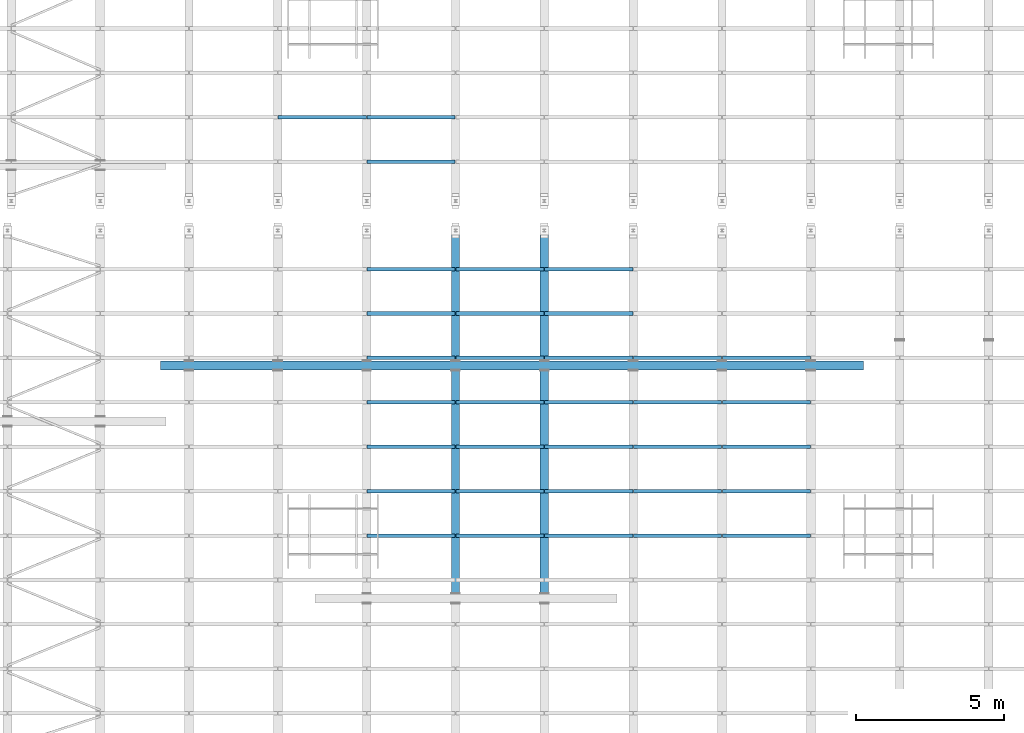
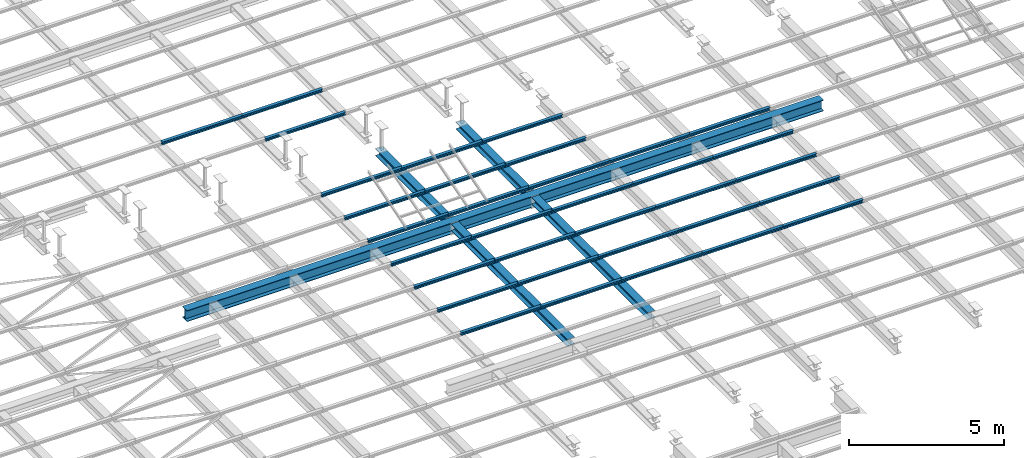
# One storey, part 62 of 139: 39 beams.
"""IFC2X3 building model written with IfcOpenShell, lengths in metres."""

import ifcopenshell
import ifcopenshell.guid

model = None  # the IFC model being written
_history = None  # IfcOwnerHistory: only IFC2X3 demands one
_inside = {}  # id of a spatial element -> (the spatial element, [elements in it])
_under = {}  # id of a project, library or spatial element -> (it, [spatial elements below it])
_declared = {}  # id of a project -> (the project, [libraries it declares])
_typed = {}  # id of a type object -> (the type object, [elements of that type])
_made_of = {}  # id of a material, layer set ... -> (it, [elements and type objects made of it])


def new_model(schema):
    """Start an empty IFC model of exactly this schema.

    Asked for "IFC4X3", IfcOpenShell would pick the latest addendum, in which some entities
    have other attributes; the version numbers below select the first issue.
    IFC2X3 requires an IfcOwnerHistory on every rooted entity: one is made here for all.
    """
    global model, _history
    if schema == "IFC4X3":
        model = ifcopenshell.file(schema_version=(4, 3, 0, 0))
    else:
        model = ifcopenshell.file(schema=schema)
    _inside.clear()
    _under.clear()
    _declared.clear()
    _typed.clear()
    _made_of.clear()
    _history = None
    if model.schema == "IFC2X3":
        org = make("IfcOrganization", Name="unknown")
        user = make(
            "IfcPersonAndOrganization",
            ThePerson=make("IfcPerson", FamilyName="unknown"),
            TheOrganization=org,
        )
        app = make(
            "IfcApplication",
            ApplicationDeveloper=org,
            Version="unknown",
            ApplicationFullName="unknown",
            ApplicationIdentifier="unknown",
        )
        _history = make(
            "IfcOwnerHistory",
            OwningUser=user,
            OwningApplication=app,
            ChangeAction="ADDED",
            CreationDate=0,
        )
    return model


def make(cls, **values):
    """One entity of the class cls with the attributes given. An attribute that is None is left unset."""
    return model.create_entity(
        cls, **{name: value for name, value in values.items() if value is not None}
    )


def entity(cls, *values):
    """Any entity or typed value of the class cls, its attributes in the order of the schema. None: left unset."""
    e = model.create_entity(cls)
    for i, value in enumerate(values):
        if value is not None:
            e[i] = value
    return e


def rooted(cls, **values):
    """An entity with a GlobalId (a new one), such as an element, a storey or a relation."""
    return make(cls, GlobalId=ifcopenshell.guid.new(), OwnerHistory=_history, **values)


def si_unit(unit_type, name, prefix=None):
    """IfcSIUnit, for example si_unit("LENGTHUNIT", "METRE", prefix="MILLI")."""
    return make("IfcSIUnit", UnitType=unit_type, Prefix=prefix, Name=name)


def converted_unit(unit_type, name, factor, base, dimensions=None, offset=None):
    """IfcConversionBasedUnit, such as the inch: factor (a typed value) times the base unit."""
    return make(
        "IfcConversionBasedUnit"
        if offset is None
        else "IfcConversionBasedUnitWithOffset",
        ConversionOffset=offset,
        Dimensions=None
        if dimensions is None
        else entity("IfcDimensionalExponents", *dimensions),
        UnitType=unit_type,
        Name=name,
        ConversionFactor=make(
            "IfcMeasureWithUnit", ValueComponent=factor, UnitComponent=base
        ),
    )


def derived_unit(unit_type, elements):
    """IfcDerivedUnit: a product of units, each with its exponent."""
    return make(
        "IfcDerivedUnit",
        Elements=[
            make("IfcDerivedUnitElement", Unit=unit, Exponent=power)
            for unit, power in elements
        ],
        UnitType=unit_type,
    )


def assignment(units):
    """IfcUnitAssignment: the units of a project."""
    return None if units is None else make("IfcUnitAssignment", Units=units)


def point(xyz):
    """IfcCartesianPoint."""
    return None if xyz is None else make("IfcCartesianPoint", Coordinates=xyz)


def direction(xyz):
    """IfcDirection."""
    return None if xyz is None else make("IfcDirection", DirectionRatios=xyz)


def frame(location, z_axis=None, x_axis=None):
    """IfcAxis2Placement3D, a coordinate frame: its origin and axes. An axis left out is left unset."""
    return make(
        "IfcAxis2Placement3D",
        Location=point(location),
        Axis=direction(z_axis),
        RefDirection=direction(x_axis),
    )


def origin():
    """The frame at (0, 0, 0) with its axes left unset."""
    return frame((0.0, 0.0, 0.0))


def place(relative_to, where):
    """IfcLocalPlacement: puts the frame where relative to a parent placement (None: the world)."""
    return make(
        "IfcLocalPlacement", PlacementRelTo=relative_to, RelativePlacement=where
    )


def context(
    kind, dimensions, precision=None, world=None, true_north=None, identifier=None
):
    """IfcGeometricRepresentationContext, for example the 3D "Model" context."""
    return make(
        "IfcGeometricRepresentationContext",
        ContextIdentifier=identifier,
        ContextType=kind,
        CoordinateSpaceDimension=dimensions,
        Precision=precision,
        WorldCoordinateSystem=world,
        TrueNorth=true_north,
    )


def subcontext(parent, identifier, kind, view, scale=None):
    """IfcGeometricRepresentationSubContext, for example "Body" below "Model"."""
    return make(
        "IfcGeometricRepresentationSubContext",
        ContextIdentifier=identifier,
        ContextType=kind,
        ParentContext=parent,
        TargetScale=scale,
        TargetView=view,
    )


def project(units=None, contexts=None):
    """IfcProject with its units and contexts."""
    return rooted(
        "IfcProject",
        Name="project",
        RepresentationContexts=contexts,
        UnitsInContext=assignment(units),
    )


def spatial(cls, under=None, at=None, **own):
    """A site, building, storey or space (cls), placed at a placement, below another one or the project."""
    s = rooted(cls, ObjectPlacement=at, **own)
    if under is not None:
        _under.setdefault(under.id(), (under, []))[1].append(s)
    return s


def polyline(points):
    """IfcPolyline through the points."""
    return make("IfcPolyline", Points=[point(p) for p in points])


def outline(outer, holes=None, kind="AREA"):
    """IfcArbitraryClosedProfileDef: a profile drawn as a closed curve; with holes, ...WithVoids."""
    if holes is None:
        return make("IfcArbitraryClosedProfileDef", ProfileType=kind, OuterCurve=outer)
    return make(
        "IfcArbitraryProfileDefWithVoids",
        ProfileType=kind,
        OuterCurve=outer,
        InnerCurves=holes,
    )


def extrude(swept, where, along, depth):
    """IfcExtrudedAreaSolid: the profile swept, set in the frame where, extruded along a direction by depth."""
    return make(
        "IfcExtrudedAreaSolid",
        SweptArea=swept,
        Position=where,
        ExtrudedDirection=direction(along),
        Depth=depth,
    )


def shape(context_of_items, identifier, shape_type, items):
    """IfcShapeRepresentation: the items that make up one representation, for example the "Body"."""
    return make(
        "IfcShapeRepresentation",
        ContextOfItems=context_of_items,
        RepresentationIdentifier=identifier,
        RepresentationType=shape_type,
        Items=items,
    )


def material(Name=None, Category=None):
    """IfcMaterial."""
    return make("IfcMaterial", Name=Name, Category=Category)


def made_of(thing, what):
    """Note that an element or type object is made of a material, layer set ...; save() writes the relation."""
    if what is not None:
        _made_of.setdefault(what.id(), (what, []))[1].append(thing)
    return thing


def element(
    cls,
    number,
    at=None,
    inside=None,
    cuts=None,
    type_object=None,
    material=None,
    context=None,
    identifier="Body",
    shape_type=None,
    held_by="IfcProductDefinitionShape",
    body=None,
    shapes=None,
    **own,
):
    """One element of the class cls, such as IfcWall. Its Tag is "e" and its number.

    at: its placement. inside: the storey or other place that contains it. cuts: it is an
    opening in that element (IfcRelVoidsElement). A single representation is given by context,
    identifier, shape_type and body (its items); several are given by shapes. held_by: the class
    of the entity that holds the representations. save() writes the other relations.
    """
    e = rooted(cls, Tag="e%d" % number, ObjectPlacement=at, **own)
    if body is not None:
        shapes = [shape(context, identifier, shape_type, body)]
    if shapes is not None:
        e.Representation = make(held_by, Representations=shapes)
    if inside is not None:
        _inside.setdefault(inside.id(), (inside, []))[1].append(e)
    if cuts is not None:
        rooted(
            "IfcRelVoidsElement", RelatingBuildingElement=cuts, RelatedOpeningElement=e
        )
    if type_object is not None:
        _typed.setdefault(type_object.id(), (type_object, []))[1].append(e)
    return made_of(e, material)


def aggregate(whole, parts):
    """IfcRelAggregates: a whole, such as a stair, and the parts it consists of."""
    return rooted("IfcRelAggregates", RelatingObject=whole, RelatedObjects=parts)


def save(model, path):
    """Write the relations noted so far, then the file.

    IfcRelAggregates (storeys below a building ...), IfcRelContainedInSpatialStructure (elements
    in a storey), IfcRelDefinesByType, IfcRelAssociatesMaterial and IfcRelDeclares: one each for
    every whole, place, type object, material and project.
    """
    for whole, parts in _under.values():
        aggregate(whole, parts)
    for where, things in _inside.values():
        rooted(
            "IfcRelContainedInSpatialStructure",
            RelatedElements=things,
            RelatingStructure=where,
        )
    for kind, things in _typed.values():
        rooted("IfcRelDefinesByType", RelatedObjects=things, RelatingType=kind)
    for what, things in _made_of.values():
        rooted("IfcRelAssociatesMaterial", RelatedObjects=things, RelatingMaterial=what)
    for by, libraries in _declared.values():
        rooted("IfcRelDeclares", RelatingContext=by, RelatedDefinitions=libraries)
    model.write(path)


model = new_model("IFC2X3")

# Units and contexts
model_context = context("Model", 3, precision=1e-05, world=origin())
body_context = subcontext(model_context, "Body", "Model", "MODEL_VIEW")
ifc_project = project(units=[si_unit("LENGTHUNIT", "METRE"), si_unit("AREAUNIT", "SQUARE_METRE"), si_unit("VOLUMEUNIT", "CUBIC_METRE"), si_unit("MASSUNIT", "GRAM", prefix="KILO"), converted_unit("PLANEANGLEUNIT", "DEGREE", entity("IfcPlaneAngleMeasure", 0.0174532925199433), si_unit("PLANEANGLEUNIT", "RADIAN"), dimensions=[0, 0, 0, 0, 0, 0, 0]), derived_unit("THERMALTRANSMITTANCEUNIT", [(si_unit("POWERUNIT", "WATT"), 1), (si_unit("THERMODYNAMICTEMPERATUREUNIT", "KELVIN"), -1), (si_unit("LENGTHUNIT", "METRE"), -2)]), derived_unit("VOLUMETRICFLOWRATEUNIT", [(si_unit("LENGTHUNIT", "METRE"), 3), (converted_unit("TIMEUNIT", "hour", entity("IfcTimeMeasure", 3600.0), si_unit("TIMEUNIT", "SECOND"), dimensions=[0, 0, 1, 0, 0, 0, 0]), -1), (si_unit("LENGTHUNIT", "METRE"), -1)])], contexts=[model_context])

# Site, building, storey
site_placement = place(None, origin())
site = spatial("IfcSite", under=ifc_project, at=site_placement, Name="TWP_Speiseverteilzentrum SBW VZ II", CompositionType="ELEMENT")
building_placement = place(site_placement, origin())
building = spatial("IfcBuilding", under=site, at=building_placement, Name="Speiseverteilzentrum SBW VZ II", CompositionType="ELEMENT")
storey_placement = place(building_placement, frame((0.0, 0.0, 7.1307)))
storey = spatial("IfcBuildingStorey", under=building, at=storey_placement, Name="Wartung_FFB", CompositionType="ELEMENT", Elevation=7.1307)

# Beams
ifc_material_1 = material(Name="S235")
beam_1_placement = place(storey_placement, frame((51.0896046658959, 65.3445685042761, -0.41), z_axis=(0.0, 0.0, 1.0), x_axis=(-1.22464679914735e-16, -1.0, 0.0)))
element("IfcBeam", 1, at=beam_1_placement, inside=storey, material=ifc_material_1, Name="Stahlträger", context=body_context, shape_type="SweptSolid", body=[
    extrude(outline(polyline([(-0.15, 0.22), (-0.15, 0.199), (-0.00574999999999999, 0.199), (-0.00575000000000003, -0.199), (-0.15, -0.199), (-0.15, -0.22), (0.15, -0.22), (0.15, -0.199), (0.00574999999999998, -0.199), (0.00575000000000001, 0.199), (0.15, 0.199), (0.15, 0.22), (-0.15, 0.22)])), frame((0.0, 0.0, 0.0), z_axis=(0.0, 1.0, 0.0), x_axis=(-1.0, 0.0, 0.0)), (0.0, 0.0, 1.0), 23.7347745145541),
])
ifc_material_2 = material(Name="S235")
beam_2_placement = place(storey_placement, frame((61.0500000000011, 65.1695685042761, -0.325), z_axis=(0.0, 0.0, 1.0), x_axis=(-1.0, 0.0, 0.0)))
element("IfcBeam", 2, at=beam_2_placement, inside=storey, material=ifc_material_2, Name="Stahlträger", context=body_context, shape_type="SweptSolid", body=[
    extrude(outline(polyline([(-0.14, 0.135), (-0.14, 0.122), (-0.00400000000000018, 0.122), (-0.00400000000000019, -0.122), (-0.14, -0.122), (-0.14, -0.135), (0.14, -0.135), (0.14, -0.122), (0.00399999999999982, -0.122), (0.00399999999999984, 0.122), (0.14, 0.122), (0.14, 0.135), (-0.14, 0.135)])), frame((0.0, 0.0, 0.0), z_axis=(0.0, 1.0, 0.0), x_axis=(-1.0, 0.0, 0.0)), (0.0, 0.0, 1.0), 7.51492643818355),
])
ifc_material_3 = material(Name="S235")
beam_3_placement = place(storey_placement, frame((64.0500000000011, 65.1695685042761, -0.325), z_axis=(0.0, 0.0, 1.0), x_axis=(-1.0, 0.0, 0.0)))
element("IfcBeam", 3, at=beam_3_placement, inside=storey, material=ifc_material_3, Name="Stahlträger", context=body_context, shape_type="SweptSolid", body=[
    extrude(outline(polyline([(-0.14, 0.135), (-0.14, 0.122), (-0.00400000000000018, 0.122), (-0.00400000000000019, -0.122), (-0.14, -0.122), (-0.14, -0.135), (0.14, -0.135), (0.14, -0.122), (0.00399999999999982, -0.122), (0.00399999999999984, 0.122), (0.14, 0.122), (0.14, 0.135), (-0.14, 0.135)])), frame((0.0, 0.0, 0.0), z_axis=(0.0, 1.0, 0.0), x_axis=(-1.0, 0.0, 0.0)), (0.0, 0.0, 1.0), 7.51492643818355),
])
ifc_material_4 = material(Name="S235")
beam_4_placement = place(storey_placement, frame((61.0500000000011, 70.0522526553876, -0.325), z_axis=(0.0, 0.0, 1.0), x_axis=(-1.0, 0.0, 0.0)))
element("IfcBeam", 4, at=beam_4_placement, inside=storey, material=ifc_material_4, Name="Stahlträger", context=body_context, shape_type="SweptSolid", body=[
    extrude(outline(polyline([(-0.14, 0.135), (-0.14, 0.122), (-0.00400000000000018, 0.122), (-0.00400000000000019, -0.122), (-0.14, -0.122), (-0.14, -0.135), (0.14, -0.135), (0.14, -0.122), (0.00399999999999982, -0.122), (0.00399999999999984, 0.122), (0.14, 0.122), (0.14, 0.135), (-0.14, 0.135)])), frame((0.0, 0.0, 0.0), z_axis=(0.0, 1.0, 0.0), x_axis=(-1.0, 0.0, 0.0)), (0.0, 0.0, 1.0), 4.53268415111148),
])
ifc_material_5 = material(Name="S235")
beam_5_placement = place(storey_placement, frame((64.0500000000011, 70.0522526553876, -0.325), z_axis=(0.0, 0.0, 1.0), x_axis=(-1.0, 0.0, 0.0)))
element("IfcBeam", 5, at=beam_5_placement, inside=storey, material=ifc_material_5, Name="Stahlträger", context=body_context, shape_type="SweptSolid", body=[
    extrude(outline(polyline([(-0.14, 0.135), (-0.14, 0.122), (-0.00400000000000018, 0.122), (-0.00400000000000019, -0.122), (-0.14, -0.122), (-0.14, -0.135), (0.14, -0.135), (0.14, -0.122), (0.00399999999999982, -0.122), (0.00399999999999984, 0.122), (0.14, 0.122), (0.14, 0.135), (-0.14, 0.135)])), frame((0.0, 0.0, 0.0), z_axis=(0.0, 1.0, 0.0), x_axis=(-1.0, 0.0, 0.0)), (0.0, 0.0, 1.0), 4.53268415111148),
])
ifc_material_6 = material(Name="S235")
beam_6_placement = place(storey_placement, frame((55.0600000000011, 73.7261263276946, -0.133), z_axis=(0.0, 0.0, 1.0), x_axis=(0.0, -1.0, 0.0)))
element("IfcBeam", 6, at=beam_6_placement, inside=storey, material=ifc_material_6, Name="Nebenträger", context=body_context, shape_type="SweptSolid", body=[
    extrude(outline(polyline([(-0.06, 0.0570000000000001), (-0.06, 0.0490000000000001), (-0.00249999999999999, 0.0490000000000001), (-0.0025, -0.0489999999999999), (-0.06, -0.0489999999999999), (-0.06, -0.0569999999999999), (0.06, -0.0569999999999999), (0.06, -0.0489999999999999), (0.0025, -0.0489999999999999), (0.00250000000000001, 0.0490000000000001), (0.06, 0.0490000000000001), (0.06, 0.0570000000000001), (-0.06, 0.0570000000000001)])), frame((0.0, 0.0, 0.0), z_axis=(0.0, 1.0, 0.0), x_axis=(-1.0, 0.0, 0.0)), (0.0, 0.0, 1.0), 2.98),
])
ifc_material_7 = material(Name="S235")
beam_7_placement = place(storey_placement, frame((58.0600000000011, 73.7261263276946, -0.133), z_axis=(0.0, 0.0, 1.0), x_axis=(0.0, -1.0, 0.0)))
element("IfcBeam", 7, at=beam_7_placement, inside=storey, material=ifc_material_7, Name="Nebenträger", context=body_context, shape_type="SweptSolid", body=[
    extrude(outline(polyline([(-0.06, 0.0570000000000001), (-0.06, 0.0490000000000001), (-0.00249999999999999, 0.0490000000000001), (-0.0025, -0.0489999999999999), (-0.06, -0.0489999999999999), (-0.06, -0.0569999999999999), (0.06, -0.0569999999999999), (0.06, -0.0489999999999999), (0.0025, -0.0489999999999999), (0.00250000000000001, 0.0490000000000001), (0.06, 0.0490000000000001), (0.06, 0.0570000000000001), (-0.06, 0.0570000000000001)])), frame((0.0, 0.0, 0.0), z_axis=(0.0, 1.0, 0.0), x_axis=(-1.0, 0.0, 0.0)), (0.0, 0.0, 1.0), 2.98),
])
ifc_material_8 = material(Name="S235")
beam_8_placement = place(storey_placement, frame((58.0600000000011, 72.2261263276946, -0.133), z_axis=(0.0, 0.0, 1.0), x_axis=(0.0, -1.0, 0.0)))
element("IfcBeam", 8, at=beam_8_placement, inside=storey, material=ifc_material_8, Name="Nebenträger", context=body_context, shape_type="SweptSolid", body=[
    extrude(outline(polyline([(-0.06, 0.0570000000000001), (-0.06, 0.0490000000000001), (-0.00249999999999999, 0.0490000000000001), (-0.0025, -0.0489999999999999), (-0.06, -0.0489999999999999), (-0.06, -0.0569999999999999), (0.06, -0.0569999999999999), (0.06, -0.0489999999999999), (0.0025, -0.0489999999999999), (0.00250000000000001, 0.0490000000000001), (0.06, 0.0490000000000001), (0.06, 0.0570000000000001), (-0.06, 0.0570000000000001)])), frame((0.0, 0.0, 0.0), z_axis=(0.0, 1.0, 0.0), x_axis=(-1.0, 0.0, 0.0)), (0.0, 0.0, 1.0), 2.98),
])
ifc_material_9 = material(Name="S235")
beam_9_placement = place(storey_placement, frame((64.0600000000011, 68.6011263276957, -0.133), z_axis=(0.0, 0.0, 1.0), x_axis=(0.0, -1.0, 0.0)))
element("IfcBeam", 9, at=beam_9_placement, inside=storey, material=ifc_material_9, Name="Nebenträger", context=body_context, shape_type="SweptSolid", body=[
    extrude(outline(polyline([(-0.06, 0.0570000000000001), (-0.06, 0.0490000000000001), (-0.00249999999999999, 0.0490000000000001), (-0.0025, -0.0489999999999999), (-0.06, -0.0489999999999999), (-0.06, -0.0569999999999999), (0.06, -0.0569999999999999), (0.06, -0.0489999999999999), (0.0025, -0.0489999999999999), (0.00250000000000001, 0.0490000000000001), (0.06, 0.0490000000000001), (0.06, 0.0570000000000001), (-0.06, 0.0570000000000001)])), frame((0.0, 0.0, 0.0), z_axis=(0.0, 1.0, 0.0), x_axis=(-1.0, 0.0, 0.0)), (0.0, 0.0, 1.0), 2.98000000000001),
])
ifc_material_10 = material(Name="S235")
beam_10_placement = place(storey_placement, frame((58.0600000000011, 68.6011263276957, -0.133), z_axis=(0.0, 0.0, 1.0), x_axis=(0.0, -1.0, 0.0)))
element("IfcBeam", 10, at=beam_10_placement, inside=storey, material=ifc_material_10, Name="Nebenträger", context=body_context, shape_type="SweptSolid", body=[
    extrude(outline(polyline([(-0.06, 0.0570000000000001), (-0.06, 0.0490000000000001), (-0.00249999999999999, 0.0490000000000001), (-0.0025, -0.0489999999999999), (-0.06, -0.0489999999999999), (-0.06, -0.0569999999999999), (0.06, -0.0569999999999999), (0.06, -0.0489999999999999), (0.0025, -0.0489999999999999), (0.00250000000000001, 0.0490000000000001), (0.06, 0.0490000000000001), (0.06, 0.0570000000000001), (-0.06, 0.0570000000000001)])), frame((0.0, 0.0, 0.0), z_axis=(0.0, 1.0, 0.0), x_axis=(-1.0, 0.0, 0.0)), (0.0, 0.0, 1.0), 2.98),
])
ifc_material_11 = material(Name="S235")
beam_11_placement = place(storey_placement, frame((61.0600000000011, 68.6011263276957, -0.133), z_axis=(0.0, 0.0, 1.0), x_axis=(0.0, -1.0, 0.0)))
element("IfcBeam", 11, at=beam_11_placement, inside=storey, material=ifc_material_11, Name="Nebenträger", context=body_context, shape_type="SweptSolid", body=[
    extrude(outline(polyline([(-0.06, 0.0570000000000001), (-0.06, 0.0490000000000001), (-0.00249999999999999, 0.0490000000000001), (-0.0025, -0.0489999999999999), (-0.06, -0.0489999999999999), (-0.06, -0.0569999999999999), (0.06, -0.0569999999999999), (0.06, -0.0489999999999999), (0.0025, -0.0489999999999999), (0.00250000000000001, 0.0490000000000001), (0.06, 0.0490000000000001), (0.06, 0.0570000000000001), (-0.06, 0.0570000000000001)])), frame((0.0, 0.0, 0.0), z_axis=(0.0, 1.0, 0.0), x_axis=(-1.0, 0.0, 0.0)), (0.0, 0.0, 1.0), 2.98),
])
ifc_material_12 = material(Name="S235")
beam_12_placement = place(storey_placement, frame((64.0600000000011, 67.1011263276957, -0.133), z_axis=(0.0, 0.0, 1.0), x_axis=(0.0, -1.0, 0.0)))
element("IfcBeam", 12, at=beam_12_placement, inside=storey, material=ifc_material_12, Name="Nebenträger", context=body_context, shape_type="SweptSolid", body=[
    extrude(outline(polyline([(-0.06, 0.0570000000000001), (-0.06, 0.0490000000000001), (-0.00249999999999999, 0.0490000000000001), (-0.0025, -0.0489999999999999), (-0.06, -0.0489999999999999), (-0.06, -0.0569999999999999), (0.06, -0.0569999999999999), (0.06, -0.0489999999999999), (0.0025, -0.0489999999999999), (0.00250000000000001, 0.0490000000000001), (0.06, 0.0490000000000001), (0.06, 0.0570000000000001), (-0.06, 0.0570000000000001)])), frame((0.0, 0.0, 0.0), z_axis=(0.0, 1.0, 0.0), x_axis=(-1.0, 0.0, 0.0)), (0.0, 0.0, 1.0), 2.98000000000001),
])
ifc_material_13 = material(Name="S235")
beam_13_placement = place(storey_placement, frame((58.0600000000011, 67.1011263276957, -0.133), z_axis=(0.0, 0.0, 1.0), x_axis=(0.0, -1.0, 0.0)))
element("IfcBeam", 13, at=beam_13_placement, inside=storey, material=ifc_material_13, Name="Nebenträger", context=body_context, shape_type="SweptSolid", body=[
    extrude(outline(polyline([(-0.06, 0.0570000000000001), (-0.06, 0.0490000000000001), (-0.00249999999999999, 0.0490000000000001), (-0.0025, -0.0489999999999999), (-0.06, -0.0489999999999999), (-0.06, -0.0569999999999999), (0.06, -0.0569999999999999), (0.06, -0.0489999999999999), (0.0025, -0.0489999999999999), (0.00250000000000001, 0.0490000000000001), (0.06, 0.0490000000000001), (0.06, 0.0570000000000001), (-0.06, 0.0570000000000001)])), frame((0.0, 0.0, 0.0), z_axis=(0.0, 1.0, 0.0), x_axis=(-1.0, 0.0, 0.0)), (0.0, 0.0, 1.0), 2.98),
])
ifc_material_14 = material(Name="S235")
beam_14_placement = place(storey_placement, frame((61.0600000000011, 67.1011263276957, -0.133), z_axis=(0.0, 0.0, 1.0), x_axis=(0.0, -1.0, 0.0)))
element("IfcBeam", 14, at=beam_14_placement, inside=storey, material=ifc_material_14, Name="Nebenträger", context=body_context, shape_type="SweptSolid", body=[
    extrude(outline(polyline([(-0.06, 0.0570000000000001), (-0.06, 0.0490000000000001), (-0.00249999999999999, 0.0490000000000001), (-0.0025, -0.0489999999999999), (-0.06, -0.0489999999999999), (-0.06, -0.0569999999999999), (0.06, -0.0569999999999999), (0.06, -0.0489999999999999), (0.0025, -0.0489999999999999), (0.00250000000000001, 0.0490000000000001), (0.06, 0.0490000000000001), (0.06, 0.0570000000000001), (-0.06, 0.0570000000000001)])), frame((0.0, 0.0, 0.0), z_axis=(0.0, 1.0, 0.0), x_axis=(-1.0, 0.0, 0.0)), (0.0, 0.0, 1.0), 2.98),
])
ifc_material_15 = material(Name="S235")
beam_15_placement = place(storey_placement, frame((64.0600000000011, 65.6011263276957, -0.133), z_axis=(0.0, 0.0, 1.0), x_axis=(0.0, -1.0, 0.0)))
element("IfcBeam", 15, at=beam_15_placement, inside=storey, material=ifc_material_15, Name="Nebenträger", context=body_context, shape_type="SweptSolid", body=[
    extrude(outline(polyline([(-0.06, 0.0570000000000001), (-0.06, 0.0490000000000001), (-0.00249999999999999, 0.0490000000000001), (-0.0025, -0.0489999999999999), (-0.06, -0.0489999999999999), (-0.06, -0.0569999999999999), (0.06, -0.0569999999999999), (0.06, -0.0489999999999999), (0.0025, -0.0489999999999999), (0.00250000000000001, 0.0490000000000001), (0.06, 0.0490000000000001), (0.06, 0.0570000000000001), (-0.06, 0.0570000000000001)])), frame((0.0, 0.0, 0.0), z_axis=(0.0, 1.0, 0.0), x_axis=(-1.0, 0.0, 0.0)), (0.0, 0.0, 1.0), 2.98000000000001),
])
ifc_material_16 = material(Name="S235")
beam_16_placement = place(storey_placement, frame((67.0600000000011, 65.6011263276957, -0.133), z_axis=(0.0, 0.0, 1.0), x_axis=(0.0, -1.0, 0.0)))
element("IfcBeam", 16, at=beam_16_placement, inside=storey, material=ifc_material_16, Name="Nebenträger", context=body_context, shape_type="SweptSolid", body=[
    extrude(outline(polyline([(-0.06, 0.0570000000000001), (-0.06, 0.0490000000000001), (-0.00249999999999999, 0.0490000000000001), (-0.0025, -0.0489999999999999), (-0.06, -0.0489999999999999), (-0.06, -0.0569999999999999), (0.06, -0.0569999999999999), (0.06, -0.0489999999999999), (0.0025, -0.0489999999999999), (0.00250000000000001, 0.0490000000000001), (0.06, 0.0490000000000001), (0.06, 0.0570000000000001), (-0.06, 0.0570000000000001)])), frame((0.0, 0.0, 0.0), z_axis=(0.0, 1.0, 0.0), x_axis=(-1.0, 0.0, 0.0)), (0.0, 0.0, 1.0), 2.98),
])
ifc_material_17 = material(Name="S235")
beam_17_placement = place(storey_placement, frame((70.0600000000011, 65.6011263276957, -0.133), z_axis=(0.0, 0.0, 1.0), x_axis=(0.0, -1.0, 0.0)))
element("IfcBeam", 17, at=beam_17_placement, inside=storey, material=ifc_material_17, Name="Nebenträger", context=body_context, shape_type="SweptSolid", body=[
    extrude(outline(polyline([(-0.06, 0.0570000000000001), (-0.06, 0.0490000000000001), (-0.00249999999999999, 0.0490000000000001), (-0.0025, -0.0489999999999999), (-0.06, -0.0489999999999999), (-0.06, -0.0569999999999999), (0.06, -0.0569999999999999), (0.06, -0.0489999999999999), (0.0025, -0.0489999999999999), (0.00250000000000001, 0.0490000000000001), (0.06, 0.0490000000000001), (0.06, 0.0570000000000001), (-0.06, 0.0570000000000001)])), frame((0.0, 0.0, 0.0), z_axis=(0.0, 1.0, 0.0), x_axis=(-1.0, 0.0, 0.0)), (0.0, 0.0, 1.0), 2.98),
])
ifc_material_18 = material(Name="S235")
beam_18_placement = place(storey_placement, frame((58.0600000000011, 65.6011263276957, -0.133), z_axis=(0.0, 0.0, 1.0), x_axis=(0.0, -1.0, 0.0)))
element("IfcBeam", 18, at=beam_18_placement, inside=storey, material=ifc_material_18, Name="Nebenträger", context=body_context, shape_type="SweptSolid", body=[
    extrude(outline(polyline([(-0.06, 0.0570000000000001), (-0.06, 0.0490000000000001), (-0.00249999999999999, 0.0490000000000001), (-0.0025, -0.0489999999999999), (-0.06, -0.0489999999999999), (-0.06, -0.0569999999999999), (0.06, -0.0569999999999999), (0.06, -0.0489999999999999), (0.0025, -0.0489999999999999), (0.00250000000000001, 0.0490000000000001), (0.06, 0.0490000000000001), (0.06, 0.0570000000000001), (-0.06, 0.0570000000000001)])), frame((0.0, 0.0, 0.0), z_axis=(0.0, 1.0, 0.0), x_axis=(-1.0, 0.0, 0.0)), (0.0, 0.0, 1.0), 2.98),
])
ifc_material_19 = material(Name="S235")
beam_19_placement = place(storey_placement, frame((61.0600000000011, 65.6011263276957, -0.133), z_axis=(0.0, 0.0, 1.0), x_axis=(0.0, -1.0, 0.0)))
element("IfcBeam", 19, at=beam_19_placement, inside=storey, material=ifc_material_19, Name="Nebenträger", context=body_context, shape_type="SweptSolid", body=[
    extrude(outline(polyline([(-0.06, 0.0570000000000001), (-0.06, 0.0490000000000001), (-0.00249999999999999, 0.0490000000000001), (-0.0025, -0.0489999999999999), (-0.06, -0.0489999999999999), (-0.06, -0.0569999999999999), (0.06, -0.0569999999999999), (0.06, -0.0489999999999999), (0.0025, -0.0489999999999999), (0.00250000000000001, 0.0490000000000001), (0.06, 0.0490000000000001), (0.06, 0.0570000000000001), (-0.06, 0.0570000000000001)])), frame((0.0, 0.0, 0.0), z_axis=(0.0, 1.0, 0.0), x_axis=(-1.0, 0.0, 0.0)), (0.0, 0.0, 1.0), 2.98),
])
ifc_material_20 = material(Name="S235")
beam_20_placement = place(storey_placement, frame((64.0600000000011, 64.1011263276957, -0.133), z_axis=(0.0, 0.0, 1.0), x_axis=(0.0, -1.0, 0.0)))
element("IfcBeam", 20, at=beam_20_placement, inside=storey, material=ifc_material_20, Name="Nebenträger", context=body_context, shape_type="SweptSolid", body=[
    extrude(outline(polyline([(-0.06, 0.0570000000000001), (-0.06, 0.0490000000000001), (-0.00249999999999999, 0.0490000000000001), (-0.0025, -0.0489999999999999), (-0.06, -0.0489999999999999), (-0.06, -0.0569999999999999), (0.06, -0.0569999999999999), (0.06, -0.0489999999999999), (0.0025, -0.0489999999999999), (0.00250000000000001, 0.0490000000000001), (0.06, 0.0490000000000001), (0.06, 0.0570000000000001), (-0.06, 0.0570000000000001)])), frame((0.0, 0.0, 0.0), z_axis=(0.0, 1.0, 0.0), x_axis=(-1.0, 0.0, 0.0)), (0.0, 0.0, 1.0), 2.98000000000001),
])
ifc_material_21 = material(Name="S235")
beam_21_placement = place(storey_placement, frame((67.0600000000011, 64.1011263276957, -0.133), z_axis=(0.0, 0.0, 1.0), x_axis=(0.0, -1.0, 0.0)))
element("IfcBeam", 21, at=beam_21_placement, inside=storey, material=ifc_material_21, Name="Nebenträger", context=body_context, shape_type="SweptSolid", body=[
    extrude(outline(polyline([(-0.06, 0.0570000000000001), (-0.06, 0.0490000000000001), (-0.00249999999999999, 0.0490000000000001), (-0.0025, -0.0489999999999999), (-0.06, -0.0489999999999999), (-0.06, -0.0569999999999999), (0.06, -0.0569999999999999), (0.06, -0.0489999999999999), (0.0025, -0.0489999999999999), (0.00250000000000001, 0.0490000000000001), (0.06, 0.0490000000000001), (0.06, 0.0570000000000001), (-0.06, 0.0570000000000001)])), frame((0.0, 0.0, 0.0), z_axis=(0.0, 1.0, 0.0), x_axis=(-1.0, 0.0, 0.0)), (0.0, 0.0, 1.0), 2.98),
])
ifc_material_22 = material(Name="S235")
beam_22_placement = place(storey_placement, frame((70.0600000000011, 64.1011263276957, -0.133), z_axis=(0.0, 0.0, 1.0), x_axis=(0.0, -1.0, 0.0)))
element("IfcBeam", 22, at=beam_22_placement, inside=storey, material=ifc_material_22, Name="Nebenträger", context=body_context, shape_type="SweptSolid", body=[
    extrude(outline(polyline([(-0.06, 0.0570000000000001), (-0.06, 0.0490000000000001), (-0.00249999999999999, 0.0490000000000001), (-0.0025, -0.0489999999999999), (-0.06, -0.0489999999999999), (-0.06, -0.0569999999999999), (0.06, -0.0569999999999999), (0.06, -0.0489999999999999), (0.0025, -0.0489999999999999), (0.00250000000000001, 0.0490000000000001), (0.06, 0.0490000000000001), (0.06, 0.0570000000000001), (-0.06, 0.0570000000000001)])), frame((0.0, 0.0, 0.0), z_axis=(0.0, 1.0, 0.0), x_axis=(-1.0, 0.0, 0.0)), (0.0, 0.0, 1.0), 2.98),
])
ifc_material_23 = material(Name="S235")
beam_23_placement = place(storey_placement, frame((58.0600000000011, 64.1011263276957, -0.133), z_axis=(0.0, 0.0, 1.0), x_axis=(0.0, -1.0, 0.0)))
element("IfcBeam", 23, at=beam_23_placement, inside=storey, material=ifc_material_23, Name="Nebenträger", context=body_context, shape_type="SweptSolid", body=[
    extrude(outline(polyline([(-0.06, 0.0570000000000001), (-0.06, 0.0490000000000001), (-0.00249999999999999, 0.0490000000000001), (-0.0025, -0.0489999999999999), (-0.06, -0.0489999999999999), (-0.06, -0.0569999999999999), (0.06, -0.0569999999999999), (0.06, -0.0489999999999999), (0.0025, -0.0489999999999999), (0.00250000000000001, 0.0490000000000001), (0.06, 0.0490000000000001), (0.06, 0.0570000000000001), (-0.06, 0.0570000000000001)])), frame((0.0, 0.0, 0.0), z_axis=(0.0, 1.0, 0.0), x_axis=(-1.0, 0.0, 0.0)), (0.0, 0.0, 1.0), 2.98),
])
ifc_material_24 = material(Name="S235")
beam_24_placement = place(storey_placement, frame((61.0600000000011, 64.1011263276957, -0.133), z_axis=(0.0, 0.0, 1.0), x_axis=(0.0, -1.0, 0.0)))
element("IfcBeam", 24, at=beam_24_placement, inside=storey, material=ifc_material_24, Name="Nebenträger", context=body_context, shape_type="SweptSolid", body=[
    extrude(outline(polyline([(-0.06, 0.0570000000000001), (-0.06, 0.0490000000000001), (-0.00249999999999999, 0.0490000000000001), (-0.0025, -0.0489999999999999), (-0.06, -0.0489999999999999), (-0.06, -0.0569999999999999), (0.06, -0.0569999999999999), (0.06, -0.0489999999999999), (0.0025, -0.0489999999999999), (0.00250000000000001, 0.0490000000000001), (0.06, 0.0490000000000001), (0.06, 0.0570000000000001), (-0.06, 0.0570000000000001)])), frame((0.0, 0.0, 0.0), z_axis=(0.0, 1.0, 0.0), x_axis=(-1.0, 0.0, 0.0)), (0.0, 0.0, 1.0), 2.98),
])
ifc_material_25 = material(Name="S235")
beam_25_placement = place(storey_placement, frame((64.0600000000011, 62.6011263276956, -0.133), z_axis=(0.0, 0.0, 1.0), x_axis=(0.0, -1.0, 0.0)))
element("IfcBeam", 25, at=beam_25_placement, inside=storey, material=ifc_material_25, Name="Nebenträger", context=body_context, shape_type="SweptSolid", body=[
    extrude(outline(polyline([(-0.06, 0.0570000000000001), (-0.06, 0.0490000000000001), (-0.00249999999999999, 0.0490000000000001), (-0.0025, -0.0489999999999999), (-0.06, -0.0489999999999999), (-0.06, -0.0569999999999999), (0.06, -0.0569999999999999), (0.06, -0.0489999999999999), (0.0025, -0.0489999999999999), (0.00250000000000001, 0.0490000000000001), (0.06, 0.0490000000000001), (0.06, 0.0570000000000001), (-0.06, 0.0570000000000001)])), frame((0.0, 0.0, 0.0), z_axis=(0.0, 1.0, 0.0), x_axis=(-1.0, 0.0, 0.0)), (0.0, 0.0, 1.0), 2.98000000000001),
])
ifc_material_26 = material(Name="S235")
beam_26_placement = place(storey_placement, frame((67.0600000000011, 62.6011263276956, -0.133), z_axis=(0.0, 0.0, 1.0), x_axis=(0.0, -1.0, 0.0)))
element("IfcBeam", 26, at=beam_26_placement, inside=storey, material=ifc_material_26, Name="Nebenträger", context=body_context, shape_type="SweptSolid", body=[
    extrude(outline(polyline([(-0.06, 0.0570000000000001), (-0.06, 0.0490000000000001), (-0.00249999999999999, 0.0490000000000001), (-0.0025, -0.0489999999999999), (-0.06, -0.0489999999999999), (-0.06, -0.0569999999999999), (0.06, -0.0569999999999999), (0.06, -0.0489999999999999), (0.0025, -0.0489999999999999), (0.00250000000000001, 0.0490000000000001), (0.06, 0.0490000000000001), (0.06, 0.0570000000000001), (-0.06, 0.0570000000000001)])), frame((0.0, 0.0, 0.0), z_axis=(0.0, 1.0, 0.0), x_axis=(-1.0, 0.0, 0.0)), (0.0, 0.0, 1.0), 2.98),
])
ifc_material_27 = material(Name="S235")
beam_27_placement = place(storey_placement, frame((70.0600000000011, 62.6011263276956, -0.133), z_axis=(0.0, 0.0, 1.0), x_axis=(0.0, -1.0, 0.0)))
element("IfcBeam", 27, at=beam_27_placement, inside=storey, material=ifc_material_27, Name="Nebenträger", context=body_context, shape_type="SweptSolid", body=[
    extrude(outline(polyline([(-0.06, 0.0570000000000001), (-0.06, 0.0490000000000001), (-0.00249999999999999, 0.0490000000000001), (-0.0025, -0.0489999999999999), (-0.06, -0.0489999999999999), (-0.06, -0.0569999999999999), (0.06, -0.0569999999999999), (0.06, -0.0489999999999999), (0.0025, -0.0489999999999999), (0.00250000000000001, 0.0490000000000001), (0.06, 0.0490000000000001), (0.06, 0.0570000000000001), (-0.06, 0.0570000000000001)])), frame((0.0, 0.0, 0.0), z_axis=(0.0, 1.0, 0.0), x_axis=(-1.0, 0.0, 0.0)), (0.0, 0.0, 1.0), 2.98),
])
ifc_material_28 = material(Name="S235")
beam_28_placement = place(storey_placement, frame((58.0600000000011, 62.6011263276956, -0.133), z_axis=(0.0, 0.0, 1.0), x_axis=(0.0, -1.0, 0.0)))
element("IfcBeam", 28, at=beam_28_placement, inside=storey, material=ifc_material_28, Name="Nebenträger", context=body_context, shape_type="SweptSolid", body=[
    extrude(outline(polyline([(-0.06, 0.0570000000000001), (-0.06, 0.0490000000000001), (-0.00249999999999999, 0.0490000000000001), (-0.0025, -0.0489999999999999), (-0.06, -0.0489999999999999), (-0.06, -0.0569999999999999), (0.06, -0.0569999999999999), (0.06, -0.0489999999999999), (0.0025, -0.0489999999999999), (0.00250000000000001, 0.0490000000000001), (0.06, 0.0490000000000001), (0.06, 0.0570000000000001), (-0.06, 0.0570000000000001)])), frame((0.0, 0.0, 0.0), z_axis=(0.0, 1.0, 0.0), x_axis=(-1.0, 0.0, 0.0)), (0.0, 0.0, 1.0), 2.98),
])
ifc_material_29 = material(Name="S235")
beam_29_placement = place(storey_placement, frame((61.0600000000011, 62.6011263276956, -0.133), z_axis=(0.0, 0.0, 1.0), x_axis=(0.0, -1.0, 0.0)))
element("IfcBeam", 29, at=beam_29_placement, inside=storey, material=ifc_material_29, Name="Nebenträger", context=body_context, shape_type="SweptSolid", body=[
    extrude(outline(polyline([(-0.06, 0.0570000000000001), (-0.06, 0.0490000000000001), (-0.00249999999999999, 0.0490000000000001), (-0.0025, -0.0489999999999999), (-0.06, -0.0489999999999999), (-0.06, -0.0569999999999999), (0.06, -0.0569999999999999), (0.06, -0.0489999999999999), (0.0025, -0.0489999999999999), (0.00250000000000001, 0.0490000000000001), (0.06, 0.0490000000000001), (0.06, 0.0570000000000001), (-0.06, 0.0570000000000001)])), frame((0.0, 0.0, 0.0), z_axis=(0.0, 1.0, 0.0), x_axis=(-1.0, 0.0, 0.0)), (0.0, 0.0, 1.0), 2.98),
])
ifc_material_30 = material(Name="S235")
beam_30_placement = place(storey_placement, frame((64.0600000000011, 61.1011263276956, -0.133), z_axis=(0.0, 0.0, 1.0), x_axis=(0.0, -1.0, 0.0)))
element("IfcBeam", 30, at=beam_30_placement, inside=storey, material=ifc_material_30, Name="Nebenträger", context=body_context, shape_type="SweptSolid", body=[
    extrude(outline(polyline([(-0.06, 0.0570000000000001), (-0.06, 0.0490000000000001), (-0.00249999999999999, 0.0490000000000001), (-0.0025, -0.0489999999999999), (-0.06, -0.0489999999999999), (-0.06, -0.0569999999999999), (0.06, -0.0569999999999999), (0.06, -0.0489999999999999), (0.0025, -0.0489999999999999), (0.00250000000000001, 0.0490000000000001), (0.06, 0.0490000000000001), (0.06, 0.0570000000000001), (-0.06, 0.0570000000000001)])), frame((0.0, 0.0, 0.0), z_axis=(0.0, 1.0, 0.0), x_axis=(-1.0, 0.0, 0.0)), (0.0, 0.0, 1.0), 2.98000000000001),
])
ifc_material_31 = material(Name="S235")
beam_31_placement = place(storey_placement, frame((67.0600000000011, 61.1011263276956, -0.133), z_axis=(0.0, 0.0, 1.0), x_axis=(0.0, -1.0, 0.0)))
element("IfcBeam", 31, at=beam_31_placement, inside=storey, material=ifc_material_31, Name="Nebenträger", context=body_context, shape_type="SweptSolid", body=[
    extrude(outline(polyline([(-0.06, 0.0570000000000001), (-0.06, 0.0490000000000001), (-0.00249999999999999, 0.0490000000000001), (-0.0025, -0.0489999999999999), (-0.06, -0.0489999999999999), (-0.06, -0.0569999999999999), (0.06, -0.0569999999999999), (0.06, -0.0489999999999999), (0.0025, -0.0489999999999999), (0.00250000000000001, 0.0490000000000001), (0.06, 0.0490000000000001), (0.06, 0.0570000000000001), (-0.06, 0.0570000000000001)])), frame((0.0, 0.0, 0.0), z_axis=(0.0, 1.0, 0.0), x_axis=(-1.0, 0.0, 0.0)), (0.0, 0.0, 1.0), 2.98),
])
ifc_material_32 = material(Name="S235")
beam_32_placement = place(storey_placement, frame((70.0600000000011, 61.1011263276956, -0.133), z_axis=(0.0, 0.0, 1.0), x_axis=(0.0, -1.0, 0.0)))
element("IfcBeam", 32, at=beam_32_placement, inside=storey, material=ifc_material_32, Name="Nebenträger", context=body_context, shape_type="SweptSolid", body=[
    extrude(outline(polyline([(-0.06, 0.0570000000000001), (-0.06, 0.0490000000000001), (-0.00249999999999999, 0.0490000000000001), (-0.0025, -0.0489999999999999), (-0.06, -0.0489999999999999), (-0.06, -0.0569999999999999), (0.06, -0.0569999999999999), (0.06, -0.0489999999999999), (0.0025, -0.0489999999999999), (0.00250000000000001, 0.0490000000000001), (0.06, 0.0490000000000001), (0.06, 0.0570000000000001), (-0.06, 0.0570000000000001)])), frame((0.0, 0.0, 0.0), z_axis=(0.0, 1.0, 0.0), x_axis=(-1.0, 0.0, 0.0)), (0.0, 0.0, 1.0), 2.98),
])
ifc_material_33 = material(Name="S235")
beam_33_placement = place(storey_placement, frame((58.0600000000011, 61.1011263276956, -0.133), z_axis=(0.0, 0.0, 1.0), x_axis=(0.0, -1.0, 0.0)))
element("IfcBeam", 33, at=beam_33_placement, inside=storey, material=ifc_material_33, Name="Nebenträger", context=body_context, shape_type="SweptSolid", body=[
    extrude(outline(polyline([(-0.06, 0.0570000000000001), (-0.06, 0.0490000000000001), (-0.00249999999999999, 0.0490000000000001), (-0.0025, -0.0489999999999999), (-0.06, -0.0489999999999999), (-0.06, -0.0569999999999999), (0.06, -0.0569999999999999), (0.06, -0.0489999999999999), (0.0025, -0.0489999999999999), (0.00250000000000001, 0.0490000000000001), (0.06, 0.0490000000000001), (0.06, 0.0570000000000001), (-0.06, 0.0570000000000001)])), frame((0.0, 0.0, 0.0), z_axis=(0.0, 1.0, 0.0), x_axis=(-1.0, 0.0, 0.0)), (0.0, 0.0, 1.0), 2.98),
])
ifc_material_34 = material(Name="S235")
beam_34_placement = place(storey_placement, frame((61.0600000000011, 61.1011263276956, -0.133), z_axis=(0.0, 0.0, 1.0), x_axis=(0.0, -1.0, 0.0)))
element("IfcBeam", 34, at=beam_34_placement, inside=storey, material=ifc_material_34, Name="Nebenträger", context=body_context, shape_type="SweptSolid", body=[
    extrude(outline(polyline([(-0.06, 0.0570000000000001), (-0.06, 0.0490000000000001), (-0.00249999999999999, 0.0490000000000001), (-0.0025, -0.0489999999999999), (-0.06, -0.0489999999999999), (-0.06, -0.0569999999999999), (0.06, -0.0569999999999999), (0.06, -0.0489999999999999), (0.0025, -0.0489999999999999), (0.00250000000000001, 0.0490000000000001), (0.06, 0.0490000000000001), (0.06, 0.0570000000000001), (-0.06, 0.0570000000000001)])), frame((0.0, 0.0, 0.0), z_axis=(0.0, 1.0, 0.0), x_axis=(-1.0, 0.0, 0.0)), (0.0, 0.0, 1.0), 2.98),
])
ifc_material_35 = material(Name="S235")
beam_35_placement = place(storey_placement, frame((64.0600000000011, 59.6011263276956, -0.133), z_axis=(0.0, 0.0, 1.0), x_axis=(0.0, -1.0, 0.0)))
element("IfcBeam", 35, at=beam_35_placement, inside=storey, material=ifc_material_35, Name="Nebenträger", context=body_context, shape_type="SweptSolid", body=[
    extrude(outline(polyline([(-0.06, 0.0570000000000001), (-0.06, 0.0490000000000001), (-0.00249999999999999, 0.0490000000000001), (-0.0025, -0.0489999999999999), (-0.06, -0.0489999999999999), (-0.06, -0.0569999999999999), (0.06, -0.0569999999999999), (0.06, -0.0489999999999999), (0.0025, -0.0489999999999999), (0.00250000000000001, 0.0490000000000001), (0.06, 0.0490000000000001), (0.06, 0.0570000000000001), (-0.06, 0.0570000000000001)])), frame((0.0, 0.0, 0.0), z_axis=(0.0, 1.0, 0.0), x_axis=(-1.0, 0.0, 0.0)), (0.0, 0.0, 1.0), 2.98000000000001),
])
ifc_material_36 = material(Name="S235")
beam_36_placement = place(storey_placement, frame((67.0600000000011, 59.6011263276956, -0.133), z_axis=(0.0, 0.0, 1.0), x_axis=(0.0, -1.0, 0.0)))
element("IfcBeam", 36, at=beam_36_placement, inside=storey, material=ifc_material_36, Name="Nebenträger", context=body_context, shape_type="SweptSolid", body=[
    extrude(outline(polyline([(-0.06, 0.0570000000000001), (-0.06, 0.0490000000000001), (-0.00249999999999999, 0.0490000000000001), (-0.0025, -0.0489999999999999), (-0.06, -0.0489999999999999), (-0.06, -0.0569999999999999), (0.06, -0.0569999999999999), (0.06, -0.0489999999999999), (0.0025, -0.0489999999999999), (0.00250000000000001, 0.0490000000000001), (0.06, 0.0490000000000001), (0.06, 0.0570000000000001), (-0.06, 0.0570000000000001)])), frame((0.0, 0.0, 0.0), z_axis=(0.0, 1.0, 0.0), x_axis=(-1.0, 0.0, 0.0)), (0.0, 0.0, 1.0), 2.98),
])
ifc_material_37 = material(Name="S235")
beam_37_placement = place(storey_placement, frame((70.0600000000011, 59.6011263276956, -0.133), z_axis=(0.0, 0.0, 1.0), x_axis=(0.0, -1.0, 0.0)))
element("IfcBeam", 37, at=beam_37_placement, inside=storey, material=ifc_material_37, Name="Nebenträger", context=body_context, shape_type="SweptSolid", body=[
    extrude(outline(polyline([(-0.06, 0.0570000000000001), (-0.06, 0.0490000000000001), (-0.00249999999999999, 0.0490000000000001), (-0.0025, -0.0489999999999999), (-0.06, -0.0489999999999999), (-0.06, -0.0569999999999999), (0.06, -0.0569999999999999), (0.06, -0.0489999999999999), (0.0025, -0.0489999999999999), (0.00250000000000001, 0.0490000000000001), (0.06, 0.0490000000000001), (0.06, 0.0570000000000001), (-0.06, 0.0570000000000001)])), frame((0.0, 0.0, 0.0), z_axis=(0.0, 1.0, 0.0), x_axis=(-1.0, 0.0, 0.0)), (0.0, 0.0, 1.0), 2.98),
])
ifc_material_38 = material(Name="S235")
beam_38_placement = place(storey_placement, frame((58.0600000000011, 59.6011263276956, -0.133), z_axis=(0.0, 0.0, 1.0), x_axis=(0.0, -1.0, 0.0)))
element("IfcBeam", 38, at=beam_38_placement, inside=storey, material=ifc_material_38, Name="Nebenträger", context=body_context, shape_type="SweptSolid", body=[
    extrude(outline(polyline([(-0.06, 0.0570000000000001), (-0.06, 0.0490000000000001), (-0.00249999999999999, 0.0490000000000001), (-0.0025, -0.0489999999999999), (-0.06, -0.0489999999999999), (-0.06, -0.0569999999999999), (0.06, -0.0569999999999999), (0.06, -0.0489999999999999), (0.0025, -0.0489999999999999), (0.00250000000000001, 0.0490000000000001), (0.06, 0.0490000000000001), (0.06, 0.0570000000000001), (-0.06, 0.0570000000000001)])), frame((0.0, 0.0, 0.0), z_axis=(0.0, 1.0, 0.0), x_axis=(-1.0, 0.0, 0.0)), (0.0, 0.0, 1.0), 2.98),
])
ifc_material_39 = material(Name="S235")
beam_39_placement = place(storey_placement, frame((61.0600000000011, 59.6011263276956, -0.133), z_axis=(0.0, 0.0, 1.0), x_axis=(0.0, -1.0, 0.0)))
element("IfcBeam", 39, at=beam_39_placement, inside=storey, material=ifc_material_39, Name="Nebenträger", context=body_context, shape_type="SweptSolid", body=[
    extrude(outline(polyline([(-0.06, 0.0570000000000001), (-0.06, 0.0490000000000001), (-0.00249999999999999, 0.0490000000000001), (-0.0025, -0.0489999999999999), (-0.06, -0.0489999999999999), (-0.06, -0.0569999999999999), (0.06, -0.0569999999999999), (0.06, -0.0489999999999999), (0.0025, -0.0489999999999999), (0.00250000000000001, 0.0490000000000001), (0.06, 0.0490000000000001), (0.06, 0.0570000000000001), (-0.06, 0.0570000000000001)])), frame((0.0, 0.0, 0.0), z_axis=(0.0, 1.0, 0.0), x_axis=(-1.0, 0.0, 0.0)), (0.0, 0.0, 1.0), 2.98),
])

save(model, "model.ifc")
